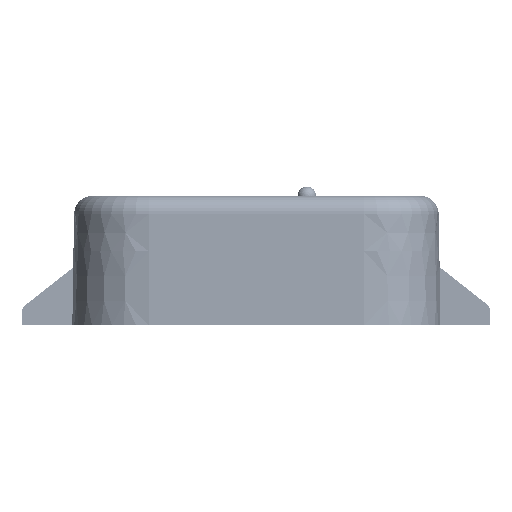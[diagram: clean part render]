
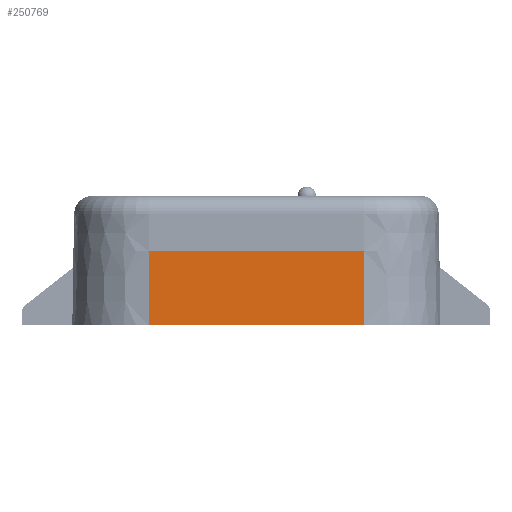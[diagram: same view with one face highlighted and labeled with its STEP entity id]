
A CAD part, left-side view. The second image highlights one B-rep face of the part: STEP entity #250769.
In plain terms, the highlighted planar face has unit normal (-1, 0, 0.018) as drawn and (1, 0.017, 0) by its records, which use the part's own axes.
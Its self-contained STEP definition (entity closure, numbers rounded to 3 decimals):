
#23798 = CARTESIAN_POINT ( 'NONE',  ( -2.118, 9.279, 30.252 ) ) ;
#25714 = DIRECTION ( 'NONE',  ( 0., 0., 1. ) ) ;
#55642 = CARTESIAN_POINT ( 'NONE',  ( -1.923, -1.902, 30.252 ) ) ;
#63857 = CARTESIAN_POINT ( 'NONE',  ( -2.132, 10.048, 89.414 ) ) ;
#74454 = DIRECTION ( 'NONE',  ( -0.017, 1., 0. ) ) ;
#89559 = CARTESIAN_POINT ( 'NONE',  ( -1.923, -1.902, 89.414 ) ) ;
#104352 = PLANE ( 'NONE',  #347370 ) ;
#113050 = VECTOR ( 'NONE', #123687, 1000. ) ;
#123047 = CARTESIAN_POINT ( 'NONE',  ( -2.132, 10.048, 54.626 ) ) ;
#123687 = DIRECTION ( 'NONE',  ( 0., 0., -1. ) ) ;
#124147 = ORIENTED_EDGE ( 'NONE', *, *, #174193, .T. ) ;
#141843 = LINE ( 'NONE', #145537, #368311 ) ;
#145537 = CARTESIAN_POINT ( 'NONE',  ( -2.288, 19.018, 54.626 ) ) ;
#155827 = EDGE_CURVE ( 'NONE', #292723, #275760, #199782, .T. ) ;
#166864 = VERTEX_POINT ( 'NONE', #273360 ) ;
#174193 = EDGE_CURVE ( 'NONE', #166864, #275760, #248129, .T. ) ;
#183808 = EDGE_CURVE ( 'NONE', #262091, #292723, #141843, .T. ) ;
#193761 = CARTESIAN_POINT ( 'NONE',  ( -2.288, 19.018, 89.414 ) ) ;
#194655 = EDGE_CURVE ( 'NONE', #166864, #262091, #296017, .T. ) ;
#199782 = LINE ( 'NONE', #55642, #228082 ) ;
#216758 = VECTOR ( 'NONE', #278075, 1000. ) ;
#218517 = DIRECTION ( 'NONE',  ( 1., 0.017, 0. ) ) ;
#228082 = VECTOR ( 'NONE', #25714, 1000. ) ;
#233551 = DIRECTION ( 'NONE',  ( 0.017, -1., 0. ) ) ;
#248129 = LINE ( 'NONE', #193761, #216758 ) ;
#250769 = ADVANCED_FACE ( 'NONE', ( #274713 ), #104352, .T. ) ;
#262091 = VERTEX_POINT ( 'NONE', #123047 ) ;
#271049 = ORIENTED_EDGE ( 'NONE', *, *, #183808, .F. ) ;
#273360 = CARTESIAN_POINT ( 'NONE',  ( -2.132, 10.048, 89.414 ) ) ;
#274713 = FACE_OUTER_BOUND ( 'NONE', #342941, .T. ) ;
#275760 = VERTEX_POINT ( 'NONE', #89559 ) ;
#278075 = DIRECTION ( 'NONE',  ( 0.017, -1., 0. ) ) ;
#292723 = VERTEX_POINT ( 'NONE', #340206 ) ;
#296017 = LINE ( 'NONE', #63857, #113050 ) ;
#322207 = ORIENTED_EDGE ( 'NONE', *, *, #155827, .F. ) ;
#340206 = CARTESIAN_POINT ( 'NONE',  ( -1.923, -1.902, 54.626 ) ) ;
#342941 = EDGE_LOOP ( 'NONE', ( #271049, #353427, #124147, #322207 ) ) ;
#347370 = AXIS2_PLACEMENT_3D ( 'NONE', #23798, #218517, #74454 ) ;
#353427 = ORIENTED_EDGE ( 'NONE', *, *, #194655, .F. ) ;
#368311 = VECTOR ( 'NONE', #233551, 1000. ) ;
